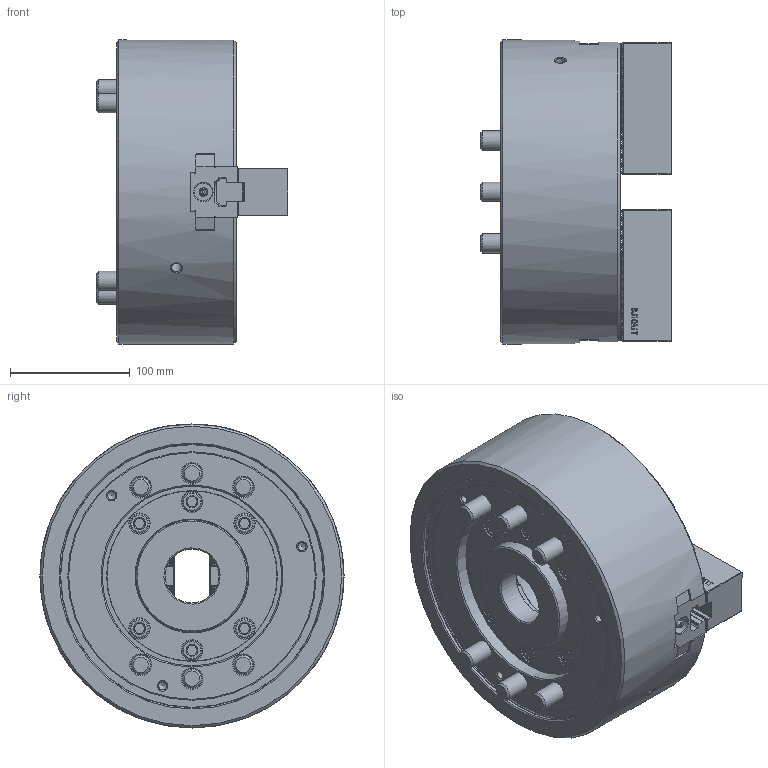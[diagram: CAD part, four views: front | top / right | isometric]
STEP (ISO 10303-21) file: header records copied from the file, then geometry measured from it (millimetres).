
FILE_DESCRIPTION (( 'STEP AP214' ), '1' );
FILE_NAME ('DT1_BT210_OUTSIDE_VIEW_HCL.STEP', '2024-05-09T01:09:47', ( '' ), ( '' ), 'SwSTEP 2.0', 'SolidWorks 2022', '' );
FILE_SCHEMA (( 'AUTOMOTIVE_DESIGN' ));
Length unit declared in the file: millimetre
Products named in the file (9): DT1_B210_TNUT^DT1-BT210_ﾃﾞﾌｫﾙﾄ; DT1_B210_M12x30^DT1-BT210_ﾃﾞﾌｫﾙﾄ; DT1_B210_SOFTJAW^DT1-BT210_ﾃﾞﾌｫﾙﾄ; DT1_B210_COVER^DT1-BT210_ﾃﾞﾌｫﾙﾄ; DT1_B210_M16x100^DT1-BT210_ﾃﾞﾌｫﾙﾄ; DT1_B210_BASE^DT1-BT210_ﾃﾞﾌｫﾙﾄ; DT1_BT210_OUTSIDE_VIEW_HCL; DT1_B210_DRAWNUT^DT1-BT210_ﾃﾞﾌｫﾙﾄ; DT1_B210_M6x10^DT1-BT210_ﾃﾞﾌｫﾙﾄ
Assembly tree (21 placements, depth 2):
  DT1_BT210_OUTSIDE_VIEW_HCL
    DT1_B210_SOFTJAW^DT1-BT210_ﾃﾞﾌｫﾙﾄ  x2
    DT1_B210_TNUT^DT1-BT210_ﾃﾞﾌｫﾙﾄ  x2
    DT1_B210_DRAWNUT^DT1-BT210_ﾃﾞﾌｫﾙﾄ
    DT1_B210_COVER^DT1-BT210_ﾃﾞﾌｫﾙﾄ
    DT1_B210_BASE^DT1-BT210_ﾃﾞﾌｫﾙﾄ
    DT1_B210_M6x10^DT1-BT210_ﾃﾞﾌｫﾙﾄ  x4
    DT1_B210_M12x30^DT1-BT210_ﾃﾞﾌｫﾙﾄ  x4
    DT1_B210_M16x100^DT1-BT210_ﾃﾞﾌｫﾙﾄ  x6
Bounding box: 160 x 254 x 254 mm (x, y, z)
Volume: 4680350.5 mm3; surface area: 458357 mm2
Topology: 21 solids, 25 shells, 3589 faces, 10078 edges, 6645 vertices
Faces by surface type: plane 2489, cylinder 676, bspline 209, cone 194, torus 19, sphere 2
Full cylindrical faces by diameter (mm): 2 x2, 5 x4, 6 x4, 6.6 x4, 6.8 x3, 8.5 x2, 10.2 x4, 10.5 x4, 11 x4, 12 x4, 13 x4, 15 x2, 16 x6, 17 x12, 18.27 x4, 19 x4, 24.33 x6, 26 x6, 45 x1, 75 x2, 79 x2, 80 x2, 86 x1, 94 x2, 142.7 x1, 150 x1, 220 x1, 221 x1, 254 x1
Entity records: 90672 total; most frequent: CARTESIAN_POINT 25798, ORIENTED_EDGE 14572, DIRECTION 11394, EDGE_CURVE 7286, VECTOR 5470, LINE 5470, VERTEX_POINT 4896, AXIS2_PLACEMENT_3D 2962
